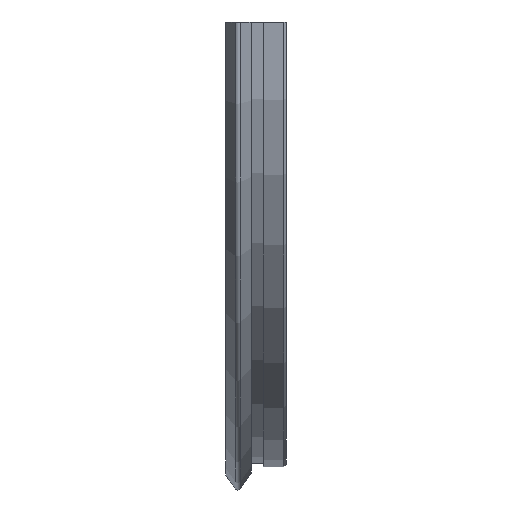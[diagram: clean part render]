
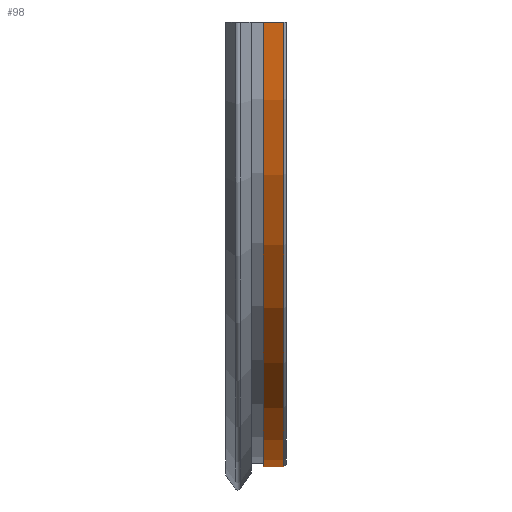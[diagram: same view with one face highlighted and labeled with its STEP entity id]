
A CAD part, left-side view. The second image highlights one B-rep face of the part: STEP entity #98.
In plain terms, the highlighted cylindrical face has radius 74.3 mm (diameter 148.6 mm), a partial arc.
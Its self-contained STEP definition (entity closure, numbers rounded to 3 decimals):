
#98=ADVANCED_FACE('',(#574),#575,.T.);
#574=FACE_OUTER_BOUND('',#1534,.T.);
#575=CYLINDRICAL_SURFACE('',#1535,74.3);
#1534=EDGE_LOOP('',(#2526,#2527,#2528,#2529));
#1535=AXIS2_PLACEMENT_3D('',#2530,#2531,#2532);
#2526=ORIENTED_EDGE('',*,*,#6668,.F.);
#2527=ORIENTED_EDGE('',*,*,#6681,.T.);
#2528=ORIENTED_EDGE('',*,*,#6682,.F.);
#2529=ORIENTED_EDGE('',*,*,#6683,.T.);
#2530=CARTESIAN_POINT('',(0.0,0.0,0.0));
#2531=DIRECTION('',(0.0,-1.0,0.0));
#2532=DIRECTION('',(0.0,0.0,-1.0));
#6668=EDGE_CURVE('',#8057,#8059,#8060,.T.);
#6681=EDGE_CURVE('',#8057,#8079,#8081,.T.);
#6682=EDGE_CURVE('',#8082,#8079,#8083,.F.);
#6683=EDGE_CURVE('',#8082,#8059,#8084,.T.);
#8057=VERTEX_POINT('',#10386);
#8059=VERTEX_POINT('',#10389);
#8060=LINE('',#10390,#10391);
#8079=VERTEX_POINT('',#10421);
#8081=CIRCLE('',#10424,74.3);
#8082=VERTEX_POINT('',#10425);
#8083=LINE('',#10426,#10427);
#8084=CIRCLE('',#10428,74.3);
#10386=CARTESIAN_POINT('',(-74.293,3.8,-1.0));
#10389=CARTESIAN_POINT('',(-74.293,0.4,-1.0));
#10390=CARTESIAN_POINT('',(-74.293,0.0,-1.0));
#10391=VECTOR('',#13979,1.0);
#10421=CARTESIAN_POINT('',(74.293,3.8,-1.0));
#10424=AXIS2_PLACEMENT_3D('',#13998,#13999,#14000);
#10425=CARTESIAN_POINT('',(74.293,0.4,-1.0));
#10426=CARTESIAN_POINT('',(74.293,0.0,-1.0));
#10427=VECTOR('',#14001,1.0);
#10428=AXIS2_PLACEMENT_3D('',#14002,#14003,#14004);
#13979=DIRECTION('',(0.0,-1.0,0.0));
#13998=CARTESIAN_POINT('',(0.0,3.8,0.0));
#13999=DIRECTION('',(0.0,-1.0,0.0));
#14000=DIRECTION('',(0.0,0.0,-1.0));
#14001=DIRECTION('',(0.0,-1.0,0.0));
#14002=CARTESIAN_POINT('',(0.0,0.4,0.0));
#14003=DIRECTION('',(0.0,1.0,0.0));
#14004=DIRECTION('',(0.0,0.0,1.0));
